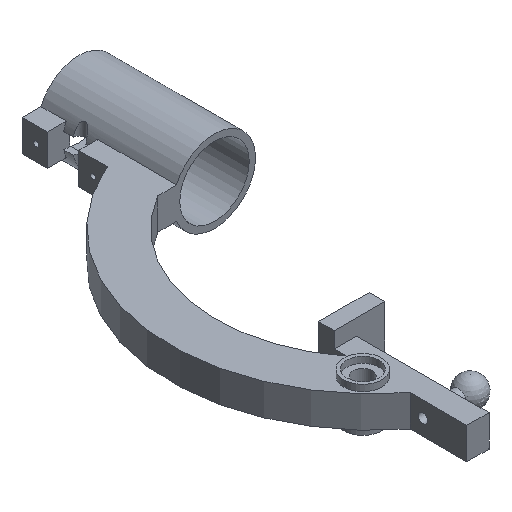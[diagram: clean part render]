
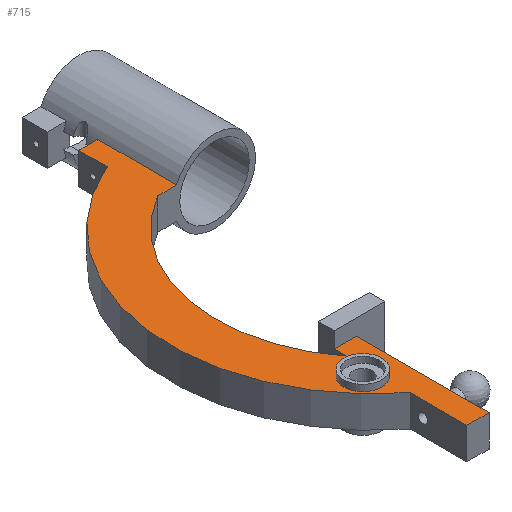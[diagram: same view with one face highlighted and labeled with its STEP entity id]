
A CAD part, isometric view. The second image highlights one B-rep face of the part: STEP entity #715.
In plain terms, the highlighted planar face has unit normal (0, 0, 1).
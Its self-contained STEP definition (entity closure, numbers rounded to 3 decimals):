
#26=LINE('',#1110,#85);
#27=LINE('',#1112,#86);
#28=LINE('',#1114,#87);
#29=LINE('',#1118,#88);
#30=LINE('',#1120,#89);
#31=LINE('',#1122,#90);
#32=LINE('',#1124,#91);
#33=LINE('',#1126,#92);
#34=LINE('',#1129,#93);
#85=VECTOR('',#900,25.);
#86=VECTOR('',#901,6.);
#87=VECTOR('',#902,9.);
#88=VECTOR('',#905,18.);
#89=VECTOR('',#906,7.);
#90=VECTOR('',#907,42.);
#91=VECTOR('',#908,7.);
#92=VECTOR('',#909,3.997);
#93=VECTOR('',#912,6.);
#138=PLANE('',#778);
#174=FACE_BOUND('',#270,.T.);
#214=FACE_OUTER_BOUND('',#269,.T.);
#269=EDGE_LOOP('',(#545,#546,#547,#548,#549,#550,#551,#552,#553,#554,#555));
#270=EDGE_LOOP('',(#556));
#327=CIRCLE('',#776,6.);
#328=CIRCLE('',#779,64.309);
#329=CIRCLE('',#780,50.);
#370=VERTEX_POINT('',#1104);
#371=VERTEX_POINT('',#1108);
#372=VERTEX_POINT('',#1109);
#373=VERTEX_POINT('',#1111);
#374=VERTEX_POINT('',#1113);
#375=VERTEX_POINT('',#1115);
#376=VERTEX_POINT('',#1117);
#377=VERTEX_POINT('',#1119);
#378=VERTEX_POINT('',#1121);
#379=VERTEX_POINT('',#1123);
#380=VERTEX_POINT('',#1125);
#381=VERTEX_POINT('',#1127);
#440=EDGE_CURVE('',#370,#370,#327,.T.);
#441=EDGE_CURVE('',#371,#372,#26,.T.);
#442=EDGE_CURVE('',#373,#371,#27,.T.);
#443=EDGE_CURVE('',#373,#374,#28,.T.);
#444=EDGE_CURVE('',#374,#375,#328,.T.);
#445=EDGE_CURVE('',#375,#376,#29,.T.);
#446=EDGE_CURVE('',#376,#377,#30,.T.);
#447=EDGE_CURVE('',#377,#378,#31,.T.);
#448=EDGE_CURVE('',#378,#379,#32,.T.);
#449=EDGE_CURVE('',#379,#380,#33,.T.);
#450=EDGE_CURVE('',#380,#381,#329,.T.);
#451=EDGE_CURVE('',#381,#372,#34,.T.);
#545=ORIENTED_EDGE('',*,*,#441,.F.);
#546=ORIENTED_EDGE('',*,*,#442,.F.);
#547=ORIENTED_EDGE('',*,*,#443,.T.);
#548=ORIENTED_EDGE('',*,*,#444,.T.);
#549=ORIENTED_EDGE('',*,*,#445,.T.);
#550=ORIENTED_EDGE('',*,*,#446,.T.);
#551=ORIENTED_EDGE('',*,*,#447,.T.);
#552=ORIENTED_EDGE('',*,*,#448,.T.);
#553=ORIENTED_EDGE('',*,*,#449,.T.);
#554=ORIENTED_EDGE('',*,*,#450,.T.);
#555=ORIENTED_EDGE('',*,*,#451,.T.);
#556=ORIENTED_EDGE('',*,*,#440,.T.);
#715=ADVANCED_FACE('',(#214,#174),#138,.T.);
#776=AXIS2_PLACEMENT_3D('',#1105,#894,#895);
#778=AXIS2_PLACEMENT_3D('',#1107,#898,#899);
#779=AXIS2_PLACEMENT_3D('',#1116,#903,#904);
#780=AXIS2_PLACEMENT_3D('',#1128,#910,#911);
#894=DIRECTION('center_axis',(0.,0.,-1.));
#895=DIRECTION('ref_axis',(-1.,0.,0.));
#898=DIRECTION('center_axis',(0.,0.,1.));
#899=DIRECTION('ref_axis',(0.,-1.,0.));
#900=DIRECTION('',(0.,-1.,0.));
#901=DIRECTION('',(1.,0.,0.));
#902=DIRECTION('',(0.,-1.,0.));
#903=DIRECTION('center_axis',(0.,0.,1.));
#904=DIRECTION('ref_axis',(-0.394,0.919,0.));
#905=DIRECTION('',(0.,-1.,0.));
#906=DIRECTION('',(1.,0.,0.));
#907=DIRECTION('',(0.,1.,0.));
#908=DIRECTION('',(-1.,0.,0.));
#909=DIRECTION('',(0.,-1.,0.));
#910=DIRECTION('center_axis',(0.,0.,-1.));
#911=DIRECTION('ref_axis',(0.506,-0.862,0.));
#912=DIRECTION('',(1.,0.,0.));
#1104=CARTESIAN_POINT('',(-29.,-82.,5.));
#1105=CARTESIAN_POINT('Origin',(-35.,-82.,5.));
#1107=CARTESIAN_POINT('Origin',(-18.,25.,5.));
#1108=CARTESIAN_POINT('',(-12.,25.,5.));
#1109=CARTESIAN_POINT('',(-12.,0.,5.));
#1110=CARTESIAN_POINT('',(-12.,0.,5.));
#1111=CARTESIAN_POINT('',(-18.,25.,5.));
#1112=CARTESIAN_POINT('',(-18.,25.,5.));
#1113=CARTESIAN_POINT('',(-18.,16.,5.));
#1114=CARTESIAN_POINT('',(-18.,25.,5.));
#1115=CARTESIAN_POINT('',(-32.,-94.,5.));
#1116=CARTESIAN_POINT('Origin',(7.322,-43.114,5.));
#1117=CARTESIAN_POINT('',(-32.,-112.,5.));
#1118=CARTESIAN_POINT('',(-32.,-94.,5.));
#1119=CARTESIAN_POINT('',(-25.,-112.,5.));
#1120=CARTESIAN_POINT('',(-32.,-112.,5.));
#1121=CARTESIAN_POINT('',(-25.,-70.,5.));
#1122=CARTESIAN_POINT('',(-25.,-112.,5.));
#1123=CARTESIAN_POINT('',(-32.,-70.,5.));
#1124=CARTESIAN_POINT('',(-25.,-70.,5.));
#1125=CARTESIAN_POINT('',(-32.,-73.997,5.));
#1126=CARTESIAN_POINT('',(-32.,-70.,5.));
#1127=CARTESIAN_POINT('',(-18.,0.,5.));
#1128=CARTESIAN_POINT('Origin',(7.322,-43.114,5.));
#1129=CARTESIAN_POINT('',(-18.,0.,5.));
